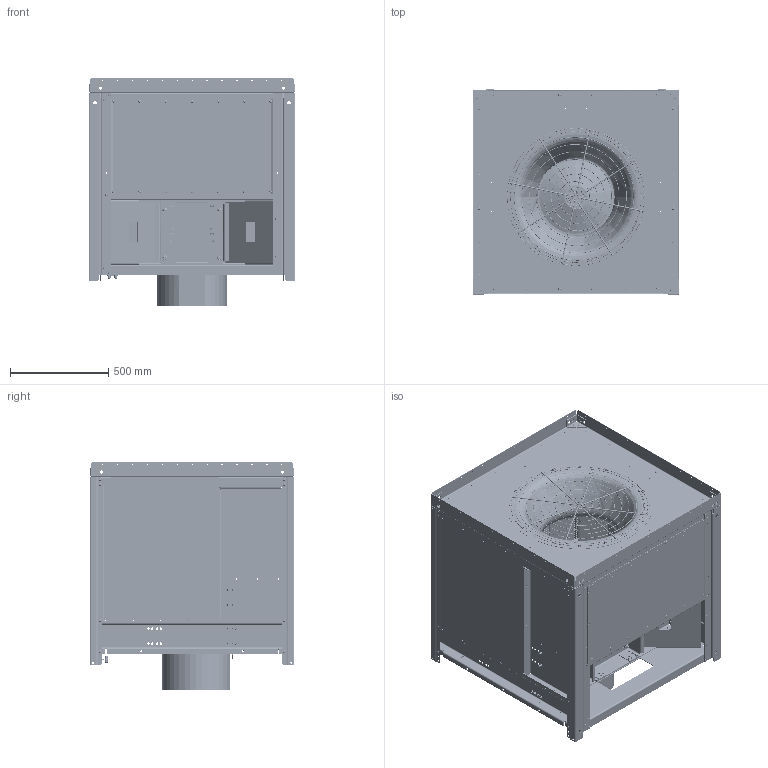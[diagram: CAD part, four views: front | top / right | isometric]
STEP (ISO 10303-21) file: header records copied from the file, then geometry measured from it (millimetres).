
FILE_DESCRIPTION((''),'2;1');
FILE_NAME('058686_ASM','2012-09-11T',('dbubemyre'),(''),'PRO/ENGINEER BY PARAMETRIC TECHNOLOGY CORPORATION, 2009220','PRO/ENGINEER BY PARAMETRIC TECHNOLOGY CORPORATION, 2009220','');
FILE_SCHEMA(('CONFIG_CONTROL_DESIGN'));
Length unit declared in the file: inch
Products named in the file (99): 0575820001; 0575830001; 0575740001; 0575880001; 0578340001; 057834_MIR; 0575990001_ASM; NEMA_284T_TEFC; 0575690001; 0575680010; 0576650009; 0579720004; 0575870011; 0575720001; 0575950003; WASHER_LOCKING_25; HCS021; 0575860008; WASHER_LOCKING_312; CSDD320; HCS021DGB; NUT_SERRATED_HEAD_1-4_20; AF-270_100; 0575770007; HEX-WASHERHD_TRILOBE_1420-3-4; 0578000900_ASM; 0575650001; 0579720004_B; 057576; 0575710002; 057778; 057778_MIR; 0575880003; 057581; NUT-INSERT_RIVET_31-18THD; WA012; HCS048; HUCK_FASTENER_PROTRUDI_25_8-6; HUCK_FASTENER_PROTRUDI_25_8-10; 0575660001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
Assembly tree (578 placements, depth 3):
  058686_ASM
    0575990001_ASM  x2
      0575820001
      0575830001
      0575740001
      0575880001
      0578340001
      057834_MIR
    NEMA_284T_TEFC
    0575690001
    0575680010
    0576650009
    0579720004
    0578000900_ASM
      0575870011
      0575720001
      0575950003
      WASHER_LOCKING_25  x3
      HCS021  x3
      0575860008
      WASHER_LOCKING_312  x8
      CSDD320  x8
      HCS021DGB  x12
      NUT_SERRATED_HEAD_1-4_20  x12
      AF-270_100  x9
      0575770007
      HEX-WASHERHD_TRILOBE_1420-3-4  x36
    0575650001
    0579720004_B
    057576
    0575710002
    057778
    057778_MIR
    0575880003  x3
    057581  x4
    NUT-INSERT_RIVET_31-18THD  x16
    WA012  x16
    HCS048  x16
    HUCK_FASTENER_PROTRUDI_25_8-6  x96
    HUCK_FASTENER_PROTRUDI_25_8-10  x20
    0575890004_ASM
      0575660001
      0575700002
      0575790001
    0575890002_ASM
      0575660003
      0575700004
      0575790003
    NUT-INSERT_RIVET_10-32THD
    057602
    FITTING-TUBE-TO-THREAD_25
    NUT_CLINCHING_38-16  x16
    WA013  x47
    HCS0780  x22
    05405801
    057632
    0544950007
    057631  x4
    058559
    BULKHEAD_TUBEFITTING_25  x2
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Bounding box: 1052.32 x 1042.16 x 1159.73 mm (x, y, z)
Volume: 175554292.9 mm3; surface area: 31181499.7 mm2
Topology: 576 solids, 576 shells, 11834 faces, 27417 edges, 17097 vertices
Faces by surface type: cylinder 5264, plane 4113, torus 1114, cone 675, bspline 452, extrusion 216
Entity records: 145961 total; most frequent: CARTESIAN_POINT 34848, DIRECTION 24633, ORIENTED_EDGE 20708, EDGE_CURVE 10354, AXIS2_PLACEMENT_3D 9858, VERTEX_POINT 6513, EDGE_LOOP 5943, CIRCLE 5028
